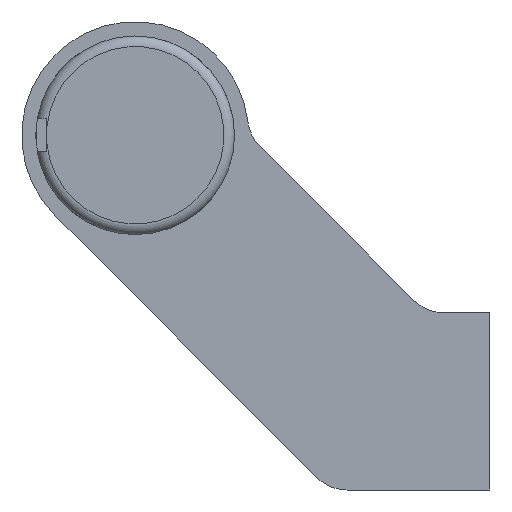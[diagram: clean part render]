
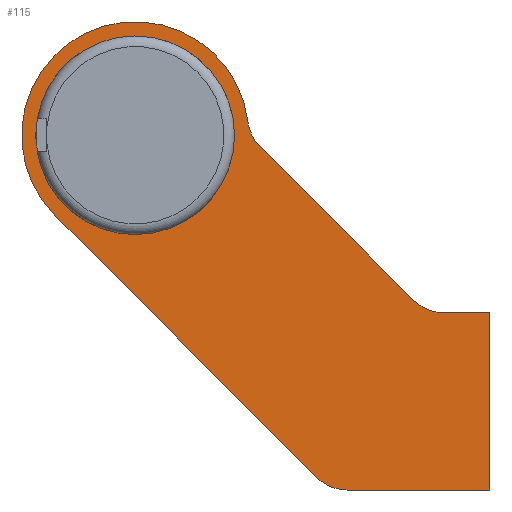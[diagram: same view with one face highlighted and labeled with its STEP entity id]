
A CAD part, left-side view. The second image highlights one B-rep face of the part: STEP entity #115.
In plain terms, the highlighted planar face has unit normal (-1, 0, 0).
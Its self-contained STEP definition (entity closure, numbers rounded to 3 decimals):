
#115 = ADVANCED_FACE( '', ( #215, #216 ), #217, .F. );
#215 = FACE_BOUND( '', #328, .T. );
#216 = FACE_OUTER_BOUND( '', #329, .T. );
#217 = PLANE( '', #330 );
#328 = EDGE_LOOP( '', ( #629 ) );
#329 = EDGE_LOOP( '', ( #630, #631, #632, #633, #634, #635, #636, #637, #638 ) );
#330 = AXIS2_PLACEMENT_3D( '', #639, #640, #641 );
#629 = ORIENTED_EDGE( '', *, *, #755, .T. );
#630 = ORIENTED_EDGE( '', *, *, #741, .F. );
#631 = ORIENTED_EDGE( '', *, *, #719, .F. );
#632 = ORIENTED_EDGE( '', *, *, #715, .F. );
#633 = ORIENTED_EDGE( '', *, *, #723, .F. );
#634 = ORIENTED_EDGE( '', *, *, #726, .F. );
#635 = ORIENTED_EDGE( '', *, *, #729, .T. );
#636 = ORIENTED_EDGE( '', *, *, #732, .F. );
#637 = ORIENTED_EDGE( '', *, *, #735, .T. );
#638 = ORIENTED_EDGE( '', *, *, #738, .F. );
#639 = CARTESIAN_POINT( '', ( -132., 50., 37.5 ) );
#640 = DIRECTION( '', ( 1., 0., 0. ) );
#641 = DIRECTION( '', ( 0., 0., -1. ) );
#715 = EDGE_CURVE( '', #840, #841, #842, .T. );
#719 = EDGE_CURVE( '', #841, #848, #849, .T. );
#723 = EDGE_CURVE( '', #855, #840, #856, .T. );
#726 = EDGE_CURVE( '', #860, #855, #861, .T. );
#729 = EDGE_CURVE( '', #860, #865, #866, .T. );
#732 = EDGE_CURVE( '', #870, #865, #871, .T. );
#735 = EDGE_CURVE( '', #870, #875, #876, .T. );
#738 = EDGE_CURVE( '', #880, #875, #881, .T. );
#741 = EDGE_CURVE( '', #848, #880, #885, .T. );
#755 = EDGE_CURVE( '', #907, #907, #908, .T. );
#840 = VERTEX_POINT( '', #1083 );
#841 = VERTEX_POINT( '', #1084 );
#842 = LINE( '', #1085, #1086 );
#848 = VERTEX_POINT( '', #1095 );
#849 = CIRCLE( '', #1096, 6. );
#855 = VERTEX_POINT( '', #1103 );
#856 = LINE( '', #1104, #1105 );
#860 = VERTEX_POINT( '', #1111 );
#861 = LINE( '', #1112, #1113 );
#865 = VERTEX_POINT( '', #1119 );
#866 = CIRCLE( '', #1120, 6. );
#870 = VERTEX_POINT( '', #1125 );
#871 = LINE( '', #1126, #1127 );
#875 = VERTEX_POINT( '', #1133 );
#876 = CIRCLE( '', #1134, 6. );
#880 = VERTEX_POINT( '', #1139 );
#881 = CIRCLE( '', #1140, 16. );
#885 = LINE( '', #1145, #1146 );
#907 = VERTEX_POINT( '', #1174 );
#908 = CIRCLE( '', #1175, 14. );
#1083 = CARTESIAN_POINT( '', ( -132., 0., -12.5 ) );
#1084 = CARTESIAN_POINT( '', ( -132., 20.142, -12.5 ) );
#1085 = CARTESIAN_POINT( '', ( -132., 0., -12.5 ) );
#1086 = VECTOR( '', #1265, 1000. );
#1095 = CARTESIAN_POINT( '', ( -132., 24.385, -10.743 ) );
#1096 = AXIS2_PLACEMENT_3D( '', #1269, #1270, #1271 );
#1103 = CARTESIAN_POINT( '', ( -132., 0., 12.5 ) );
#1104 = CARTESIAN_POINT( '', ( -132., 0., 12.5 ) );
#1105 = VECTOR( '', #1279, 1000. );
#1111 = CARTESIAN_POINT( '', ( -132., 6.515, 12.5 ) );
#1112 = CARTESIAN_POINT( '', ( -132., 6.515, 12.5 ) );
#1113 = VECTOR( '', #1282, 1000. );
#1119 = CARTESIAN_POINT( '', ( -132., 10.757, 14.257 ) );
#1120 = AXIS2_PLACEMENT_3D( '', #1285, #1286, #1287 );
#1125 = CARTESIAN_POINT( '', ( -132., 32.402, 35.902 ) );
#1126 = CARTESIAN_POINT( '', ( -132., 32.402, 35.902 ) );
#1127 = VECTOR( '', #1292, 1000. );
#1133 = CARTESIAN_POINT( '', ( -132., 34.116, 39.424 ) );
#1134 = AXIS2_PLACEMENT_3D( '', #1295, #1296, #1297 );
#1139 = CARTESIAN_POINT( '', ( -132., 61.314, 26.186 ) );
#1140 = AXIS2_PLACEMENT_3D( '', #1302, #1303, #1304 );
#1145 = CARTESIAN_POINT( '', ( -132., 24.385, -10.743 ) );
#1146 = VECTOR( '', #1309, 1000. );
#1174 = CARTESIAN_POINT( '', ( -132., 50., 23.5 ) );
#1175 = AXIS2_PLACEMENT_3D( '', #1337, #1338, #1339 );
#1265 = DIRECTION( '', ( 0., 1., 0. ) );
#1269 = CARTESIAN_POINT( '', ( -132., 20.142, -6.5 ) );
#1270 = DIRECTION( '', ( 1., 0., 0. ) );
#1271 = DIRECTION( '', ( 0., 0., -1. ) );
#1279 = DIRECTION( '', ( 0., 0., -1. ) );
#1282 = DIRECTION( '', ( 0., -1., 0. ) );
#1285 = CARTESIAN_POINT( '', ( -132., 6.515, 18.5 ) );
#1286 = DIRECTION( '', ( 1., 0., 0. ) );
#1287 = DIRECTION( '', ( 0., 0., -1. ) );
#1292 = DIRECTION( '', ( 0., -0.707, -0.707 ) );
#1295 = CARTESIAN_POINT( '', ( -132., 28.16, 40.145 ) );
#1296 = DIRECTION( '', ( 1., 0., 0. ) );
#1297 = DIRECTION( '', ( 0., 0., -1. ) );
#1302 = CARTESIAN_POINT( '', ( -132., 50., 37.5 ) );
#1303 = DIRECTION( '', ( 1., 0., 0. ) );
#1304 = DIRECTION( '', ( 0., 0., -1. ) );
#1309 = DIRECTION( '', ( 0., 0.707, 0.707 ) );
#1337 = CARTESIAN_POINT( '', ( -132., 50., 37.5 ) );
#1338 = DIRECTION( '', ( 1., 0., 0. ) );
#1339 = DIRECTION( '', ( 0., 0., -1. ) );
